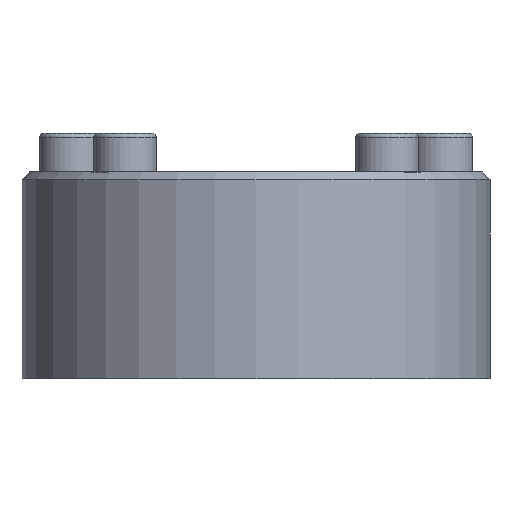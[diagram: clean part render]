
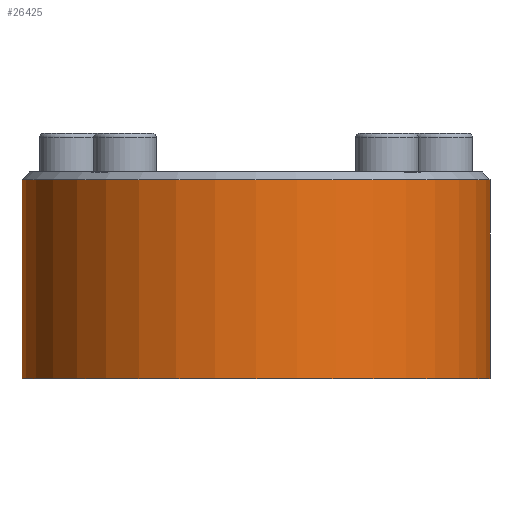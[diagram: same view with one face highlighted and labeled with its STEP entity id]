
A CAD part, front view. The second image highlights one B-rep face of the part: STEP entity #26425.
In plain terms, the highlighted cylindrical face has radius 60 mm (diameter 120 mm), a partial arc.
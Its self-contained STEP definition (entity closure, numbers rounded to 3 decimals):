
#2504=FACE_OUTER_BOUND('',#3916,.T.);
#3916=EDGE_LOOP('',(#17430,#17431,#17432,#17433));
#5494=CIRCLE('',#27840,60.);
#5495=CIRCLE('',#27841,60.);
#5558=LINE('',#33738,#8337);
#5559=LINE('',#33742,#8338);
#8337=VECTOR('',#28881,51.);
#8338=VECTOR('',#28884,51.);
#11116=VERTEX_POINT('',#33736);
#11117=VERTEX_POINT('',#33737);
#11118=VERTEX_POINT('',#33739);
#11119=VERTEX_POINT('',#33741);
#13651=EDGE_CURVE('',#11116,#11117,#5558,.T.);
#13652=EDGE_CURVE('',#11118,#11116,#5494,.T.);
#13653=EDGE_CURVE('',#11119,#11118,#5559,.T.);
#13654=EDGE_CURVE('',#11117,#11119,#5495,.T.);
#17430=ORIENTED_EDGE('',*,*,#13651,.F.);
#17431=ORIENTED_EDGE('',*,*,#13652,.F.);
#17432=ORIENTED_EDGE('',*,*,#13653,.F.);
#17433=ORIENTED_EDGE('',*,*,#13654,.F.);
#24988=CYLINDRICAL_SURFACE('',#27839,60.);
#26425=ADVANCED_FACE('',(#2504),#24988,.T.);
#27839=AXIS2_PLACEMENT_3D('',#33735,#28879,#28880);
#27840=AXIS2_PLACEMENT_3D('',#33740,#28882,#28883);
#27841=AXIS2_PLACEMENT_3D('',#33743,#28885,#28886);
#28879=DIRECTION('center_axis',(0.,0.,
1.));
#28880=DIRECTION('ref_axis',(1.,0.,0.));
#28881=DIRECTION('',(0.,0.,1.));
#28882=DIRECTION('center_axis',(0.,0.,
-1.));
#28883=DIRECTION('ref_axis',(1.,0.,0.));
#28884=DIRECTION('',(0.,0.,-1.));
#28885=DIRECTION('center_axis',(0.,0.,
1.));
#28886=DIRECTION('ref_axis',(-1.,0.,0.));
#33735=CARTESIAN_POINT('Origin',(0.,-110.,-43.25));
#33736=CARTESIAN_POINT('',(-60.,-110.,-43.25));
#33737=CARTESIAN_POINT('',(-60.,-110.,7.75));
#33738=CARTESIAN_POINT('',(-60.,-110.,-43.25));
#33739=CARTESIAN_POINT('',(60.,-110.,-43.25));
#33740=CARTESIAN_POINT('Origin',(0.,-110.,-43.25));
#33741=CARTESIAN_POINT('',(60.,-110.,7.75));
#33742=CARTESIAN_POINT('',(60.,-110.,9.75));
#33743=CARTESIAN_POINT('Origin',(0.,-110.,7.75));
